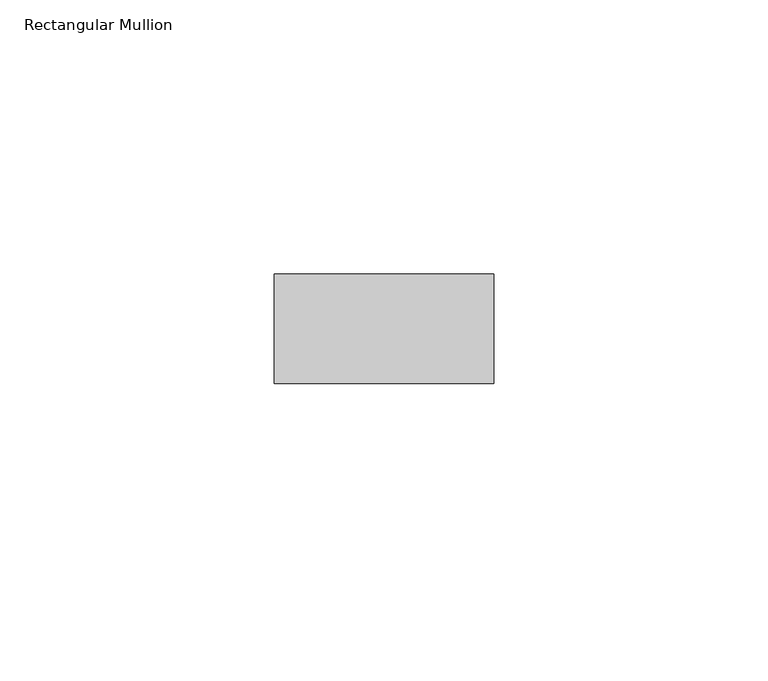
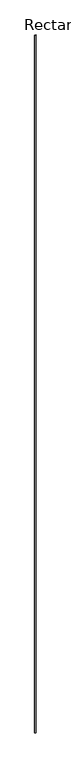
"""IFC4 building model written with IfcOpenShell, lengths in millimetres: member geometry, Rectangular Mullion : RIPA 4x2 cm."""

from ifc_helpers import new_model, si_unit, frame, origin, place, context, project, spatial, polyline, outline, extrude, source, transform, mapped, element, save


def rectangular_mullion_81e55232(model_context):
    return source(origin(), model_context, "Body", "SweptSolid", [
        extrude(outline(polyline([(20.0, 0.0), (20.0, -20.0), (-20.0, -20.0), (-20.0, 0.0), (20.0, 0.0)])), frame((0.0, 0.0, -24200.7103789), z_axis=(0.0, 0.0, 1.0), x_axis=(1.0, 0.0, 0.0)), (0.0, 0.0, 1.0), 24200.7103789),
    ])


if __name__ == "__main__":
    model = new_model("IFC4")
    model_context = context("Model", 3, world=origin())
    ifc_project = project(units=[si_unit("LENGTHUNIT", "METRE", prefix="MILLI")], contexts=[model_context])
    site = spatial("IfcSite", under=ifc_project)
    building = spatial("IfcBuilding", under=site)
    placement = place(None, origin())
    rectangular_mullion_shape = rectangular_mullion_81e55232(model_context)
    element("IfcMember", 1, ObjectType="Rectangular Mullion : RIPA 4x2 cm", at=placement, inside=building, context=model_context, shape_type="MappedRepresentation", body=[
        mapped(rectangular_mullion_shape, transform((0.0, 0.0, 0.0), x_axis=(1.0, 0.0, 0.0), y_axis=(0.0, 1.0, 0.0), z_axis=(0.0, 0.0, 1.0))),
    ])
    save(model, "model.ifc")
